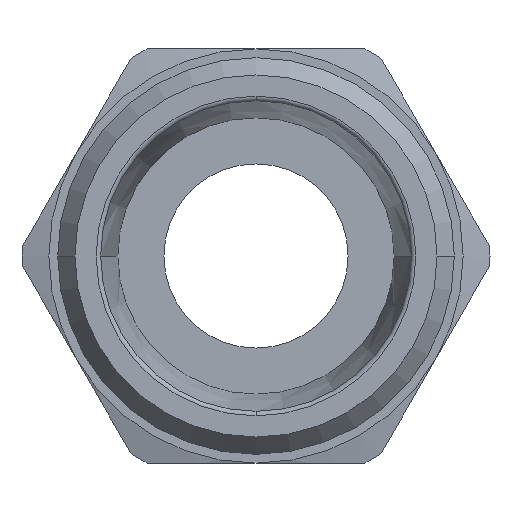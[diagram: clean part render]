
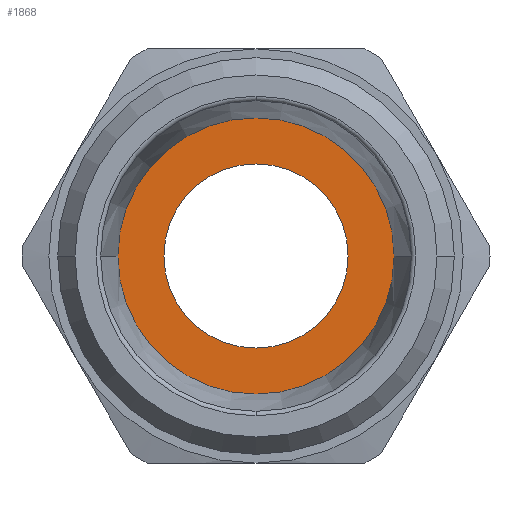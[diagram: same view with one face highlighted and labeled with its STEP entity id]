
A CAD part, left-side view. The second image highlights one B-rep face of the part: STEP entity #1868.
In plain terms, the highlighted planar face has unit normal (-1, 0, 0) as drawn and (0, 0, 1) by its records, which use the part's own axes.
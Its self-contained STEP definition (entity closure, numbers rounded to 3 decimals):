
#767=CARTESIAN_POINT('',(0.,-9.,7.85));
#768=VERTEX_POINT('',#767);
#784=CARTESIAN_POINT('',(0.,9.,7.85));
#785=VERTEX_POINT('',#784);
#792=CARTESIAN_POINT('',(0.,0.,7.85));
#793=DIRECTION('',(0.0,0.0,-1.0));
#794=DIRECTION('',(0.0,-1.0,0.0));
#795=AXIS2_PLACEMENT_3D('',#792,#793,#794);
#796=CIRCLE('',#795,9.0);
#797=EDGE_CURVE('',#785,#768,#796,.T.);
#1256=CARTESIAN_POINT('',(0.,6.,7.85));
#1257=VERTEX_POINT('',#1256);
#1266=CARTESIAN_POINT('',(0.,-6.,7.85));
#1267=VERTEX_POINT('',#1266);
#1268=CARTESIAN_POINT('',(0.,0.,7.85));
#1269=DIRECTION('',(0.0,0.0,-1.0));
#1270=DIRECTION('',(0.0,1.0,0.0));
#1271=AXIS2_PLACEMENT_3D('',#1268,#1269,#1270);
#1272=CIRCLE('',#1271,6.0);
#1273=EDGE_CURVE('',#1267,#1257,#1272,.T.);
#1555=CARTESIAN_POINT('',(0.,0.,7.85));
#1556=DIRECTION('',(0.0,0.0,-1.0));
#1557=DIRECTION('',(0.0,1.0,0.0));
#1558=AXIS2_PLACEMENT_3D('',#1555,#1556,#1557);
#1559=CIRCLE('',#1558,6.0);
#1560=EDGE_CURVE('',#1257,#1267,#1559,.T.);
#1849=CARTESIAN_POINT('',(0.,-4.5,7.85));
#1850=DIRECTION('',(0.0,0.0,1.0));
#1851=DIRECTION('',(-1.0,0.0,0.0));
#1852=AXIS2_PLACEMENT_3D('',#1849,#1850,#1851);
#1853=PLANE('',#1852);
#1854=CARTESIAN_POINT('',(0.,0.,7.85));
#1855=DIRECTION('',(0.0,0.0,-1.0));
#1856=DIRECTION('',(0.0,-1.0,0.0));
#1857=AXIS2_PLACEMENT_3D('',#1854,#1855,#1856);
#1858=CIRCLE('',#1857,9.0);
#1859=EDGE_CURVE('',#768,#785,#1858,.T.);
#1860=ORIENTED_EDGE('',*,*,#1859,.F.);
#1861=ORIENTED_EDGE('',*,*,#797,.F.);
#1862=EDGE_LOOP('',(#1860,#1861));
#1863=FACE_OUTER_BOUND('',#1862,.T.);
#1864=ORIENTED_EDGE('',*,*,#1273,.T.);
#1865=ORIENTED_EDGE('',*,*,#1560,.T.);
#1866=EDGE_LOOP('',(#1864,#1865));
#1867=FACE_BOUND('',#1866,.T.);
#1868=ADVANCED_FACE('',(#1863,#1867),#1853,.T.);
